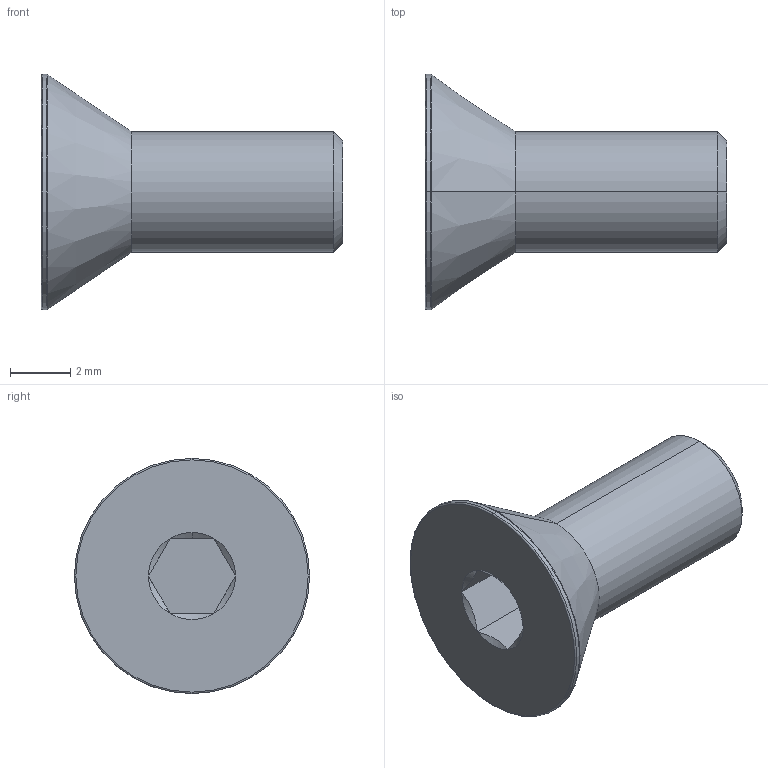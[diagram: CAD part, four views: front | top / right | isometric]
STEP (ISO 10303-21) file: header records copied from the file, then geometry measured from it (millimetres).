
FILE_DESCRIPTION (( 'STEP AP203' ), '1' );
FILE_NAME ('LGDB-304-M4x10.STEP', '2026-08-12T01:29:04', ( '' ), ( '' ), 'SwSTEP 2.0', 'SolidWorks 2020', '' );
FILE_SCHEMA (( 'CONFIG_CONTROL_DESIGN' ));
Length unit declared in the file: millimetre
Products named in the file (1): LGDB-304-M4x10
Bounding box: 10 x 7.8 x 7.8 mm (x, y, z)
Volume: 165.3 mm3; surface area: 229.9 mm2
Topology: 1 solids, 1 shells, 28 faces, 53 edges, 28 vertices
Faces by surface type: cone 11, plane 9, torus 4, cylinder 4
Entity records: 792 total; most frequent: CARTESIAN_POINT 153, DIRECTION 129, ORIENTED_EDGE 106, AXIS2_PLACEMENT_3D 54, EDGE_CURVE 53, EDGE_LOOP 29, FACE_OUTER_BOUND 28, VERTEX_POINT 28
